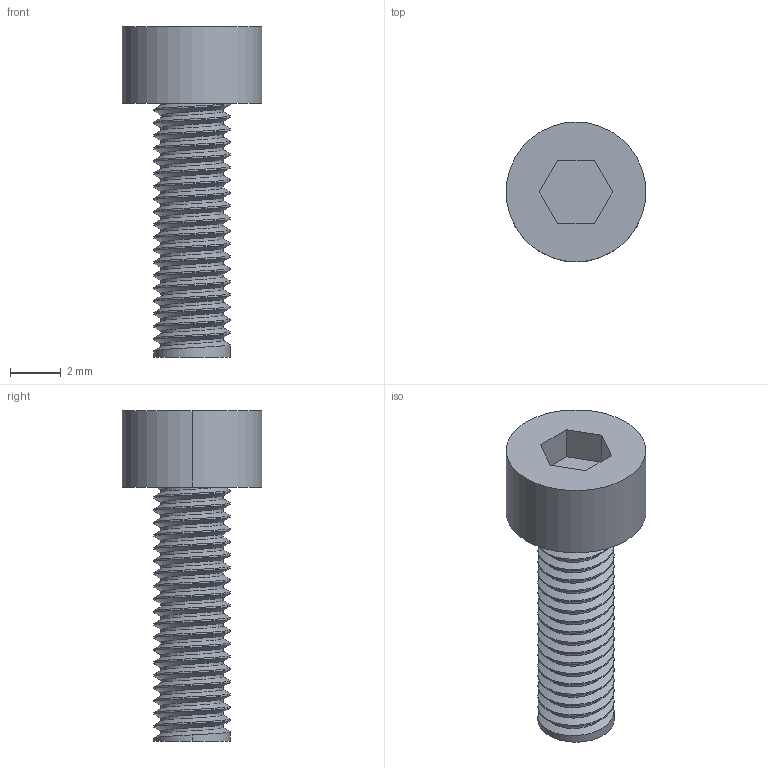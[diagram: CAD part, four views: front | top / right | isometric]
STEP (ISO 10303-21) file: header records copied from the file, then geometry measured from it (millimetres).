
FILE_DESCRIPTION (( 'STEP AP203' ), '1' );
FILE_NAME ('08_Vit_M3x10.STEP', '2026-11-14T10:02:52', ( '' ), ( '' ), 'SwSTEP 2.0', 'SolidWorks 2026', '' );
FILE_SCHEMA (( 'CONFIG_CONTROL_DESIGN' ));
Length unit declared in the file: metre
Products named in the file (1): 08_Vit_M3x10
Bounding box: 5.5 x 5.5 x 13 mm (x, y, z)
Volume: 121.4 mm3; surface area: 252.3 mm2
Topology: 1 solids, 1 shells, 59 faces, 158 edges, 103 vertices
Faces by surface type: cylinder 44, plane 12, bspline 3
Entity records: 4028 total; most frequent: CARTESIAN_POINT 2726, ORIENTED_EDGE 316, DIRECTION 198, EDGE_CURVE 158, VERTEX_POINT 103, LINE 68, VECTOR 68, AXIS2_PLACEMENT_3D 65
